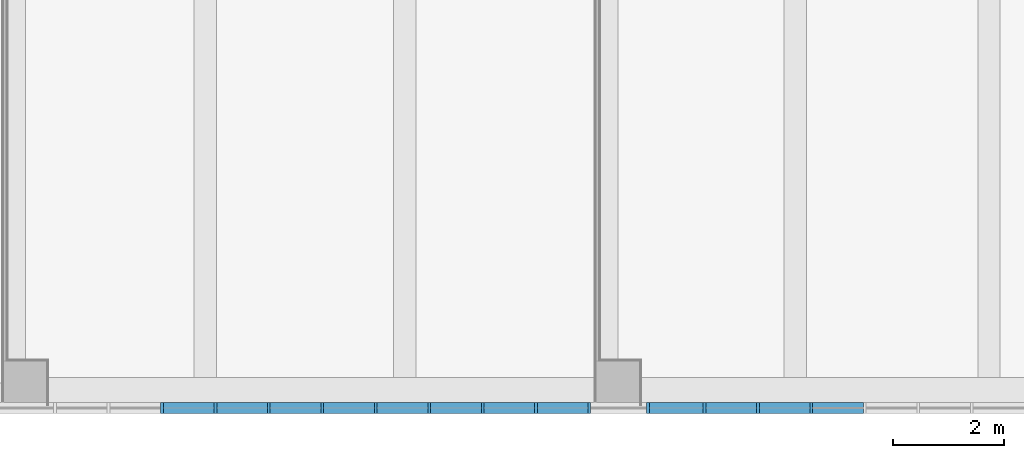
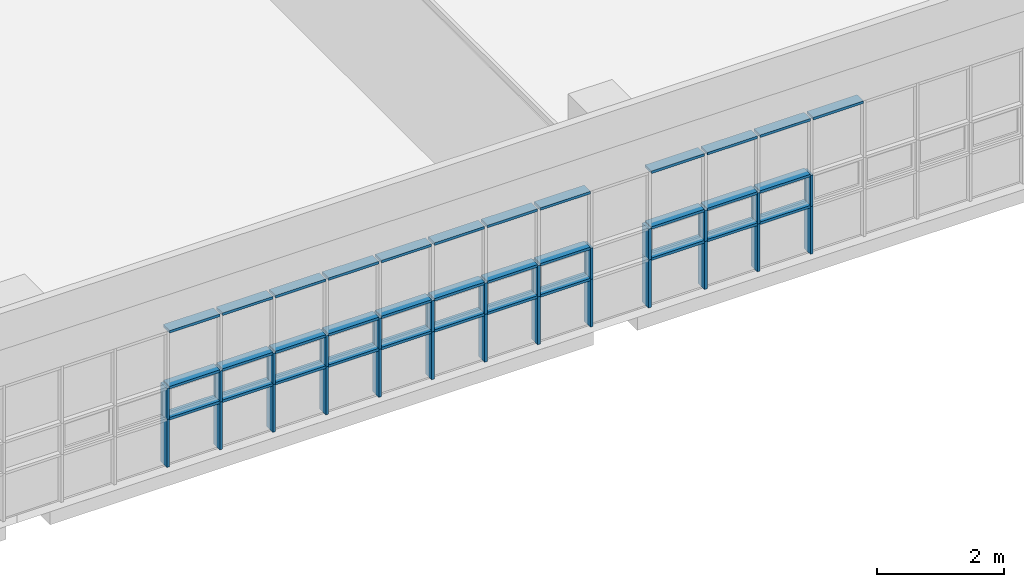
# One storey, part 14 of 81: 60 members, 1 element without a shape of its own.
"""IFC2X3 building model written with IfcOpenShell, lengths in millimetres."""

import ifcopenshell
import ifcopenshell.guid

model = None  # the IFC model being written
_history = None  # IfcOwnerHistory: only IFC2X3 demands one
_inside = {}  # id of a spatial element -> (the spatial element, [elements in it])
_under = {}  # id of a project, library or spatial element -> (it, [spatial elements below it])
_declared = {}  # id of a project -> (the project, [libraries it declares])
_typed = {}  # id of a type object -> (the type object, [elements of that type])
_made_of = {}  # id of a material, layer set ... -> (it, [elements and type objects made of it])


def new_model(schema):
    """Start an empty IFC model of exactly this schema.

    Asked for "IFC4X3", IfcOpenShell would pick the latest addendum, in which some entities
    have other attributes; the version numbers below select the first issue.
    IFC2X3 requires an IfcOwnerHistory on every rooted entity: one is made here for all.
    """
    global model, _history
    if schema == "IFC4X3":
        model = ifcopenshell.file(schema_version=(4, 3, 0, 0))
    else:
        model = ifcopenshell.file(schema=schema)
    _inside.clear()
    _under.clear()
    _declared.clear()
    _typed.clear()
    _made_of.clear()
    _history = None
    if model.schema == "IFC2X3":
        org = make("IfcOrganization", Name="unknown")
        user = make(
            "IfcPersonAndOrganization",
            ThePerson=make("IfcPerson", FamilyName="unknown"),
            TheOrganization=org,
        )
        app = make(
            "IfcApplication",
            ApplicationDeveloper=org,
            Version="unknown",
            ApplicationFullName="unknown",
            ApplicationIdentifier="unknown",
        )
        _history = make(
            "IfcOwnerHistory",
            OwningUser=user,
            OwningApplication=app,
            ChangeAction="ADDED",
            CreationDate=0,
        )
    return model


def make(cls, **values):
    """One entity of the class cls with the attributes given. An attribute that is None is left unset."""
    return model.create_entity(
        cls, **{name: value for name, value in values.items() if value is not None}
    )


def entity(cls, *values):
    """Any entity or typed value of the class cls, its attributes in the order of the schema. None: left unset."""
    e = model.create_entity(cls)
    for i, value in enumerate(values):
        if value is not None:
            e[i] = value
    return e


def rooted(cls, **values):
    """An entity with a GlobalId (a new one), such as an element, a storey or a relation."""
    return make(cls, GlobalId=ifcopenshell.guid.new(), OwnerHistory=_history, **values)


def si_unit(unit_type, name, prefix=None):
    """IfcSIUnit, for example si_unit("LENGTHUNIT", "METRE", prefix="MILLI")."""
    return make("IfcSIUnit", UnitType=unit_type, Prefix=prefix, Name=name)


def converted_unit(unit_type, name, factor, base, dimensions=None, offset=None):
    """IfcConversionBasedUnit, such as the inch: factor (a typed value) times the base unit."""
    return make(
        "IfcConversionBasedUnit"
        if offset is None
        else "IfcConversionBasedUnitWithOffset",
        ConversionOffset=offset,
        Dimensions=None
        if dimensions is None
        else entity("IfcDimensionalExponents", *dimensions),
        UnitType=unit_type,
        Name=name,
        ConversionFactor=make(
            "IfcMeasureWithUnit", ValueComponent=factor, UnitComponent=base
        ),
    )


def derived_unit(unit_type, elements):
    """IfcDerivedUnit: a product of units, each with its exponent."""
    return make(
        "IfcDerivedUnit",
        Elements=[
            make("IfcDerivedUnitElement", Unit=unit, Exponent=power)
            for unit, power in elements
        ],
        UnitType=unit_type,
    )


def assignment(units):
    """IfcUnitAssignment: the units of a project."""
    return None if units is None else make("IfcUnitAssignment", Units=units)


def point(xyz):
    """IfcCartesianPoint."""
    return None if xyz is None else make("IfcCartesianPoint", Coordinates=xyz)


def direction(xyz):
    """IfcDirection."""
    return None if xyz is None else make("IfcDirection", DirectionRatios=xyz)


def frame(location, z_axis=None, x_axis=None):
    """IfcAxis2Placement3D, a coordinate frame: its origin and axes. An axis left out is left unset."""
    return make(
        "IfcAxis2Placement3D",
        Location=point(location),
        Axis=direction(z_axis),
        RefDirection=direction(x_axis),
    )


def frame_2d(location, x_axis=None):
    """IfcAxis2Placement2D, a coordinate frame in the plane: its origin and x axis."""
    return make(
        "IfcAxis2Placement2D", Location=point(location), RefDirection=direction(x_axis)
    )


def origin():
    """The frame at (0, 0, 0) with its axes left unset."""
    return frame((0.0, 0.0, 0.0))


def origin_2d_with_axis():
    """The frame at (0, 0) in the plane with the x axis (1, 0) written out."""
    return frame_2d((0.0, 0.0), x_axis=(1.0, 0.0))


def place(relative_to, where):
    """IfcLocalPlacement: puts the frame where relative to a parent placement (None: the world)."""
    return make(
        "IfcLocalPlacement", PlacementRelTo=relative_to, RelativePlacement=where
    )


def context(
    kind, dimensions, precision=None, world=None, true_north=None, identifier=None
):
    """IfcGeometricRepresentationContext, for example the 3D "Model" context."""
    return make(
        "IfcGeometricRepresentationContext",
        ContextIdentifier=identifier,
        ContextType=kind,
        CoordinateSpaceDimension=dimensions,
        Precision=precision,
        WorldCoordinateSystem=world,
        TrueNorth=true_north,
    )


def subcontext(parent, identifier, kind, view, scale=None):
    """IfcGeometricRepresentationSubContext, for example "Body" below "Model"."""
    return make(
        "IfcGeometricRepresentationSubContext",
        ContextIdentifier=identifier,
        ContextType=kind,
        ParentContext=parent,
        TargetScale=scale,
        TargetView=view,
    )


def project(units=None, contexts=None):
    """IfcProject with its units and contexts."""
    return rooted(
        "IfcProject",
        Name="project",
        RepresentationContexts=contexts,
        UnitsInContext=assignment(units),
    )


def spatial(cls, under=None, at=None, **own):
    """A site, building, storey or space (cls), placed at a placement, below another one or the project."""
    s = rooted(cls, ObjectPlacement=at, **own)
    if under is not None:
        _under.setdefault(under.id(), (under, []))[1].append(s)
    return s


def profile(cls, at=None, kind="AREA", **sizes):
    """A parametric profile (cls). Its sizes go by their IFC names, for example OverallWidth=200.0."""
    return make(cls, ProfileType=kind, Position=at, **sizes)


def rectangle(**sizes):
    """IfcRectangleProfileDef."""
    return profile("IfcRectangleProfileDef", **sizes)


def extrude(swept, where, along, depth):
    """IfcExtrudedAreaSolid: the profile swept, set in the frame where, extruded along a direction by depth."""
    return make(
        "IfcExtrudedAreaSolid",
        SweptArea=swept,
        Position=where,
        ExtrudedDirection=direction(along),
        Depth=depth,
    )


def shape(context_of_items, identifier, shape_type, items):
    """IfcShapeRepresentation: the items that make up one representation, for example the "Body"."""
    return make(
        "IfcShapeRepresentation",
        ContextOfItems=context_of_items,
        RepresentationIdentifier=identifier,
        RepresentationType=shape_type,
        Items=items,
    )


def source(mapping_origin, context_of_items, identifier, shape_type, items):
    """IfcRepresentationMap: a shape defined once, which mapped items show again and again."""
    return make(
        "IfcRepresentationMap",
        MappingOrigin=mapping_origin,
        MappedRepresentation=shape(context_of_items, identifier, shape_type, items),
    )


def transform(
    local_origin,
    x_axis=None,
    y_axis=None,
    z_axis=None,
    scale=None,
    scale2=None,
    scale3=None,
    uniform=True,
):
    """IfcCartesianTransformationOperator3D, or its non-uniform kind. x_axis, y_axis, z_axis: its Axis1, 2, 3."""
    if uniform:
        return make(
            "IfcCartesianTransformationOperator3D",
            Axis1=direction(x_axis),
            Axis2=direction(y_axis),
            LocalOrigin=point(local_origin),
            Scale=scale,
            Axis3=direction(z_axis),
        )
    return make(
        "IfcCartesianTransformationOperator3DnonUniform",
        Axis1=direction(x_axis),
        Axis2=direction(y_axis),
        LocalOrigin=point(local_origin),
        Scale=scale,
        Axis3=direction(z_axis),
        Scale2=scale2,
        Scale3=scale3,
    )


def mapped(mapping_source, mapping_target):
    """IfcMappedItem: shows the shape of a source again, moved by a transform."""
    return make(
        "IfcMappedItem", MappingSource=mapping_source, MappingTarget=mapping_target
    )


def material(Name=None, Category=None):
    """IfcMaterial."""
    return make("IfcMaterial", Name=Name, Category=Category)


def made_of(thing, what):
    """Note that an element or type object is made of a material, layer set ...; save() writes the relation."""
    if what is not None:
        _made_of.setdefault(what.id(), (what, []))[1].append(thing)
    return thing


def type_object(cls, material=None, **own):
    """A type object (cls), such as IfcWallType, which elements share."""
    return made_of(rooted(cls, **own), material)


def type_shapes(of_type, sources):
    """Give a type object the sources (RepresentationMaps) that its elements show as mapped items."""
    of_type.RepresentationMaps = sources


def element(
    cls,
    number,
    at=None,
    inside=None,
    cuts=None,
    type_object=None,
    material=None,
    context=None,
    identifier="Body",
    shape_type=None,
    held_by="IfcProductDefinitionShape",
    body=None,
    shapes=None,
    **own,
):
    """One element of the class cls, such as IfcWall. Its Tag is "e" and its number.

    at: its placement. inside: the storey or other place that contains it. cuts: it is an
    opening in that element (IfcRelVoidsElement). A single representation is given by context,
    identifier, shape_type and body (its items); several are given by shapes. held_by: the class
    of the entity that holds the representations. save() writes the other relations.
    """
    e = rooted(cls, Tag="e%d" % number, ObjectPlacement=at, **own)
    if body is not None:
        shapes = [shape(context, identifier, shape_type, body)]
    if shapes is not None:
        e.Representation = make(held_by, Representations=shapes)
    if inside is not None:
        _inside.setdefault(inside.id(), (inside, []))[1].append(e)
    if cuts is not None:
        rooted(
            "IfcRelVoidsElement", RelatingBuildingElement=cuts, RelatedOpeningElement=e
        )
    if type_object is not None:
        _typed.setdefault(type_object.id(), (type_object, []))[1].append(e)
    return made_of(e, material)


def aggregate(whole, parts):
    """IfcRelAggregates: a whole, such as a stair, and the parts it consists of."""
    return rooted("IfcRelAggregates", RelatingObject=whole, RelatedObjects=parts)


def save(model, path):
    """Write the relations noted so far, then the file.

    IfcRelAggregates (storeys below a building ...), IfcRelContainedInSpatialStructure (elements
    in a storey), IfcRelDefinesByType, IfcRelAssociatesMaterial and IfcRelDeclares: one each for
    every whole, place, type object, material and project.
    """
    for whole, parts in _under.values():
        aggregate(whole, parts)
    for where, things in _inside.values():
        rooted(
            "IfcRelContainedInSpatialStructure",
            RelatedElements=things,
            RelatingStructure=where,
        )
    for kind, things in _typed.values():
        rooted("IfcRelDefinesByType", RelatedObjects=things, RelatingType=kind)
    for what, things in _made_of.values():
        rooted("IfcRelAssociatesMaterial", RelatedObjects=things, RelatingMaterial=what)
    for by, libraries in _declared.values():
        rooted("IfcRelDeclares", RelatingContext=by, RelatedDefinitions=libraries)
    model.write(path)


model = new_model("IFC2X3")

# Units and contexts
model_context = context("Model", 3, precision=0.01, world=origin(), true_north=direction((6.123031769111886e-17, 1.0)))
body_context = subcontext(model_context, "Body", "Model", "MODEL_VIEW")
ifc_project = project(units=[si_unit("LENGTHUNIT", "METRE", prefix="MILLI"), si_unit("AREAUNIT", "SQUARE_METRE"), si_unit("VOLUMEUNIT", "CUBIC_METRE"), converted_unit("PLANEANGLEUNIT", "DEGREE", entity("IfcRatioMeasure", 0.017453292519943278), si_unit("PLANEANGLEUNIT", "RADIAN"), dimensions=[0, 0, 0, 0, 0, 0, 0]), si_unit("MASSUNIT", "GRAM", prefix="KILO"), derived_unit("MASSDENSITYUNIT", [(si_unit("MASSUNIT", "GRAM", prefix="KILO"), 1), (si_unit("LENGTHUNIT", "METRE"), -3)]), derived_unit("MOMENTOFINERTIAUNIT", [(si_unit("LENGTHUNIT", "METRE"), 4)]), si_unit("TIMEUNIT", "SECOND"), si_unit("FREQUENCYUNIT", "HERTZ"), si_unit("THERMODYNAMICTEMPERATUREUNIT", "DEGREE_CELSIUS"), derived_unit("THERMALTRANSMITTANCEUNIT", [(si_unit("MASSUNIT", "GRAM", prefix="KILO"), 1), (si_unit("THERMODYNAMICTEMPERATUREUNIT", "KELVIN"), -1), (si_unit("TIMEUNIT", "SECOND"), -3)]), derived_unit("VOLUMETRICFLOWRATEUNIT", [(si_unit("LENGTHUNIT", "METRE"), 3), (si_unit("TIMEUNIT", "SECOND"), -1)]), derived_unit("MASSFLOWRATEUNIT", [(si_unit("MASSUNIT", "GRAM", prefix="KILO"), 1), (si_unit("TIMEUNIT", "SECOND"), -1)]), derived_unit("ROTATIONALFREQUENCYUNIT", [(si_unit("TIMEUNIT", "SECOND"), -1)]), si_unit("ELECTRICCURRENTUNIT", "AMPERE"), si_unit("ELECTRICVOLTAGEUNIT", "VOLT"), si_unit("POWERUNIT", "WATT"), si_unit("FORCEUNIT", "NEWTON", prefix="KILO"), si_unit("ILLUMINANCEUNIT", "LUX"), si_unit("LUMINOUSFLUXUNIT", "LUMEN"), si_unit("LUMINOUSINTENSITYUNIT", "CANDELA"), derived_unit("USERDEFINED", [(si_unit("MASSUNIT", "GRAM", prefix="KILO"), -1), (si_unit("LENGTHUNIT", "METRE"), -2), (si_unit("TIMEUNIT", "SECOND"), 3), (si_unit("LUMINOUSFLUXUNIT", "LUMEN"), 1)]), derived_unit("SOUNDPOWERUNIT", [(si_unit("MASSUNIT", "GRAM", prefix="KILO"), 1), (si_unit("LENGTHUNIT", "METRE"), 2), (si_unit("TIMEUNIT", "SECOND"), -3)]), derived_unit("SOUNDPRESSUREUNIT", [(si_unit("MASSUNIT", "GRAM", prefix="KILO"), 1), (si_unit("LENGTHUNIT", "METRE"), -1), (si_unit("TIMEUNIT", "SECOND"), -2)]), derived_unit("LINEARVELOCITYUNIT", [(si_unit("LENGTHUNIT", "METRE"), 1), (si_unit("TIMEUNIT", "SECOND"), -1)]), si_unit("PRESSUREUNIT", "PASCAL"), derived_unit("USERDEFINED", [(si_unit("LENGTHUNIT", "METRE"), -2), (si_unit("MASSUNIT", "GRAM", prefix="KILO"), 1), (si_unit("TIMEUNIT", "SECOND"), -2)]), derived_unit("LINEARFORCEUNIT", [(si_unit("MASSUNIT", "GRAM", prefix="KILO"), 1), (si_unit("LENGTHUNIT", "METRE"), 1), (si_unit("TIMEUNIT", "SECOND"), -2), (si_unit("LENGTHUNIT", "METRE"), -1)]), derived_unit("PLANARFORCEUNIT", [(si_unit("MASSUNIT", "GRAM", prefix="KILO"), 1), (si_unit("LENGTHUNIT", "METRE"), 1), (si_unit("TIMEUNIT", "SECOND"), -2), (si_unit("LENGTHUNIT", "METRE"), -2)])], contexts=[model_context])

# Site, building, storey
site_placement = place(None, frame((-14167.972527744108, -657.2125860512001, 0.0)))
site = spatial("IfcSite", under=ifc_project, at=site_placement, Name="Default", CompositionType="ELEMENT")
building_placement = place(site_placement, origin())
building = spatial("IfcBuilding", under=site, at=building_placement, Name="Sample Building", CompositionType="ELEMENT")
storey_placement = place(building_placement, frame((0.0, 0.0, 13400.0)))
storey = spatial("IfcBuildingStorey", under=building, at=storey_placement, Name="지상 4층", CompositionType="ELEMENT", Elevation=13400.00000000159)

# Curtain wall, members
curtain_wall_type = type_object("IfcCurtainWallType", Name="커튼월:CW112-스테인리스 스틸 커튼월", PredefinedType="NOTDEFINED")
curtain_wall_placement = place(storey_placement, frame((0.0, 0.0, -13400.0)))
curtain_wall = element("IfcCurtainWall", 1, at=curtain_wall_placement, inside=storey, type_object=curtain_wall_type, Name="커튼월:CW112-스테인리스 스틸 커튼월", ObjectType="커튼월:CW112-스테인리스 스틸 커튼월")
ifc_material = material(Name="<Unnamed>")
member_type_1 = type_object("IfcMemberType", Name="직사각형 멀리언:CW200-직사각형 멀리언 50x200mm", PredefinedType="MULLION", material=ifc_material)
shared_shape_1 = source(origin(), body_context, "Body", "SweptSolid", [
    extrude(rectangle(XDim=200.0, YDim=50.0, at=origin_2d_with_axis()), frame((0.0, 0.0, -600.0), z_axis=(0.0, 0.0, 1.0), x_axis=(0.0, -1.0, 0.0)), (0.0, 0.0, 1.0), 600.0),
])
type_shapes(member_type_1, [shared_shape_1])
member_1_placement = place(curtain_wall_placement, frame((32935.156070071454, 507.2122951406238, 14400.0), z_axis=(0.0, 0.0, -1.0), x_axis=(1.0, 0.0, 0.0)))
member_1 = element("IfcMember", 2, at=member_1_placement, type_object=member_type_1, material=ifc_material, Name="직사각형 멀리언:CW200-직사각형 멀리언 50x200mm", ObjectType="직사각형 멀리언:CW200-직사각형 멀리언 50x200mm", context=body_context, shape_type="MappedRepresentation", body=[
    mapped(shared_shape_1, transform((0.0, 0.0, 0.0), scale=1.0)),
])
member_2_placement = place(curtain_wall_placement, frame((33900.156070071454, 507.2122951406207, 14400.0), z_axis=(0.0, 0.0, -1.0), x_axis=(1.0, 0.0, 0.0)))
member_2 = element("IfcMember", 3, at=member_2_placement, type_object=member_type_1, material=ifc_material, Name="직사각형 멀리언:CW200-직사각형 멀리언 50x200mm", ObjectType="직사각형 멀리언:CW200-직사각형 멀리언 50x200mm", context=body_context, shape_type="MappedRepresentation", body=[
    mapped(shared_shape_1, transform((0.0, 0.0, 0.0), scale=1.0)),
])
member_3_placement = place(curtain_wall_placement, frame((34865.15607007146, 507.2122951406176, 14400.0), z_axis=(0.0, 0.0, -1.0), x_axis=(1.0, 0.0, 0.0)))
member_3 = element("IfcMember", 4, at=member_3_placement, type_object=member_type_1, material=ifc_material, Name="직사각형 멀리언:CW200-직사각형 멀리언 50x200mm", ObjectType="직사각형 멀리언:CW200-직사각형 멀리언 50x200mm", context=body_context, shape_type="MappedRepresentation", body=[
    mapped(shared_shape_1, transform((0.0, 0.0, 0.0), scale=1.0)),
])
member_4_placement = place(curtain_wall_placement, frame((35830.156070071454, 507.21229514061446, 14400.0), z_axis=(0.0, 0.0, -1.0), x_axis=(1.0, 0.0, 0.0)))
member_4 = element("IfcMember", 5, at=member_4_placement, type_object=member_type_1, material=ifc_material, Name="직사각형 멀리언:CW200-직사각형 멀리언 50x200mm", ObjectType="직사각형 멀리언:CW200-직사각형 멀리언 50x200mm", context=body_context, shape_type="MappedRepresentation", body=[
    mapped(shared_shape_1, transform((0.0, 0.0, 0.0), scale=1.0)),
])
member_5_placement = place(curtain_wall_placement, frame((36795.156070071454, 507.21229514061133, 14400.0), z_axis=(0.0, 0.0, -1.0), x_axis=(1.0, 0.0, 0.0)))
member_5 = element("IfcMember", 6, at=member_5_placement, type_object=member_type_1, material=ifc_material, Name="직사각형 멀리언:CW200-직사각형 멀리언 50x200mm", ObjectType="직사각형 멀리언:CW200-직사각형 멀리언 50x200mm", context=body_context, shape_type="MappedRepresentation", body=[
    mapped(shared_shape_1, transform((0.0, 0.0, 0.0), scale=1.0)),
])
member_6_placement = place(curtain_wall_placement, frame((37760.15607007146, 507.21229514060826, 14400.0), z_axis=(0.0, 0.0, -1.0), x_axis=(1.0, 0.0, 0.0)))
member_6 = element("IfcMember", 7, at=member_6_placement, type_object=member_type_1, material=ifc_material, Name="직사각형 멀리언:CW200-직사각형 멀리언 50x200mm", ObjectType="직사각형 멀리언:CW200-직사각형 멀리언 50x200mm", context=body_context, shape_type="MappedRepresentation", body=[
    mapped(shared_shape_1, transform((0.0, 0.0, 0.0), scale=1.0)),
])
member_7_placement = place(curtain_wall_placement, frame((38725.156070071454, 507.21229514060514, 14400.0), z_axis=(0.0, 0.0, -1.0), x_axis=(1.0, 0.0, 0.0)))
member_7 = element("IfcMember", 8, at=member_7_placement, type_object=member_type_1, material=ifc_material, Name="직사각형 멀리언:CW200-직사각형 멀리언 50x200mm", ObjectType="직사각형 멀리언:CW200-직사각형 멀리언 50x200mm", context=body_context, shape_type="MappedRepresentation", body=[
    mapped(shared_shape_1, transform((0.0, 0.0, 0.0), scale=1.0)),
])
member_8_placement = place(curtain_wall_placement, frame((39690.15607007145, 507.212295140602, 14400.0), z_axis=(0.0, 0.0, -1.0), x_axis=(1.0, 0.0, 0.0)))
member_8 = element("IfcMember", 9, at=member_8_placement, type_object=member_type_1, material=ifc_material, Name="직사각형 멀리언:CW200-직사각형 멀리언 50x200mm", ObjectType="직사각형 멀리언:CW200-직사각형 멀리언 50x200mm", context=body_context, shape_type="MappedRepresentation", body=[
    mapped(shared_shape_1, transform((0.0, 0.0, 0.0), scale=1.0)),
])
member_9_placement = place(curtain_wall_placement, frame((41710.15607007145, 507.21229514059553, 14400.0), z_axis=(0.0, 0.0, -1.0), x_axis=(1.0, 0.0, 0.0)))
member_9 = element("IfcMember", 10, at=member_9_placement, type_object=member_type_1, material=ifc_material, Name="직사각형 멀리언:CW200-직사각형 멀리언 50x200mm", ObjectType="직사각형 멀리언:CW200-직사각형 멀리언 50x200mm", context=body_context, shape_type="MappedRepresentation", body=[
    mapped(shared_shape_1, transform((0.0, 0.0, 0.0), scale=1.0)),
])
member_10_placement = place(curtain_wall_placement, frame((42730.156070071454, 507.2122951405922, 14400.0), z_axis=(0.0, 0.0, -1.0), x_axis=(1.0, 0.0, 0.0)))
member_10 = element("IfcMember", 11, at=member_10_placement, type_object=member_type_1, material=ifc_material, Name="직사각형 멀리언:CW200-직사각형 멀리언 50x200mm", ObjectType="직사각형 멀리언:CW200-직사각형 멀리언 50x200mm", context=body_context, shape_type="MappedRepresentation", body=[
    mapped(shared_shape_1, transform((0.0, 0.0, 0.0), scale=1.0)),
])
member_11_placement = place(curtain_wall_placement, frame((43695.15607007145, 507.2122951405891, 14400.0), z_axis=(0.0, 0.0, -1.0), x_axis=(1.0, 0.0, 0.0)))
member_11 = element("IfcMember", 12, at=member_11_placement, type_object=member_type_1, material=ifc_material, Name="직사각형 멀리언:CW200-직사각형 멀리언 50x200mm", ObjectType="직사각형 멀리언:CW200-직사각형 멀리언 50x200mm", context=body_context, shape_type="MappedRepresentation", body=[
    mapped(shared_shape_1, transform((0.0, 0.0, 0.0), scale=1.0)),
])
member_12_placement = place(curtain_wall_placement, frame((44660.15607007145, 507.212295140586, 14400.0), z_axis=(0.0, 0.0, -1.0), x_axis=(1.0, 0.0, 0.0)))
member_12 = element("IfcMember", 13, at=member_12_placement, type_object=member_type_1, material=ifc_material, Name="직사각형 멀리언:CW200-직사각형 멀리언 50x200mm", ObjectType="직사각형 멀리언:CW200-직사각형 멀리언 50x200mm", context=body_context, shape_type="MappedRepresentation", body=[
    mapped(shared_shape_1, transform((0.0, 0.0, 0.0), scale=1.0)),
])
member_13_placement = place(curtain_wall_placement, frame((40650.15607007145, 507.2122951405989, 14400.0), z_axis=(0.0, 0.0, -1.0), x_axis=(1.0, 0.0, 0.0)))
member_13 = element("IfcMember", 14, at=member_13_placement, type_object=member_type_1, material=ifc_material, Name="직사각형 멀리언:CW200-직사각형 멀리언 50x200mm", ObjectType="직사각형 멀리언:CW200-직사각형 멀리언 50x200mm", context=body_context, shape_type="MappedRepresentation", body=[
    mapped(shared_shape_1, transform((0.0, 0.0, 0.0), scale=1.0)),
])
member_type_2 = type_object("IfcMemberType", Name="직사각형 멀리언:CW200-직사각형 멀리언 50x200mm", PredefinedType="MULLION", material=ifc_material)
shared_shape_2 = source(origin(), body_context, "Body", "SweptSolid", [
    extrude(rectangle(XDim=200.0, YDim=50.0, at=origin_2d_with_axis()), frame((0.0, 0.0, -915.0), z_axis=(0.0, 0.0, 1.0), x_axis=(0.0, -1.0, 0.0)), (0.0, 0.0, 1.0), 915.000000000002),
])
type_shapes(member_type_2, [shared_shape_2])
member_14_placement = place(curtain_wall_placement, frame((33875.15607007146, 507.21229514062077, 14400.0), z_axis=(1.0, 0.0, 0.0), x_axis=(0.0, 0.0, 1.0)))
member_14 = element("IfcMember", 15, at=member_14_placement, type_object=member_type_2, material=ifc_material, Name="직사각형 멀리언:CW200-직사각형 멀리언 50x200mm", ObjectType="직사각형 멀리언:CW200-직사각형 멀리언 50x200mm", context=body_context, shape_type="MappedRepresentation", body=[
    mapped(shared_shape_2, transform((0.0, 0.0, 0.0), scale=1.0)),
])
member_15_placement = place(curtain_wall_placement, frame((34840.15607007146, 507.21229514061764, 14400.0), z_axis=(1.0, 0.0, 0.0), x_axis=(0.0, 0.0, 1.0)))
member_15 = element("IfcMember", 16, at=member_15_placement, type_object=member_type_2, material=ifc_material, Name="직사각형 멀리언:CW200-직사각형 멀리언 50x200mm", ObjectType="직사각형 멀리언:CW200-직사각형 멀리언 50x200mm", context=body_context, shape_type="MappedRepresentation", body=[
    mapped(shared_shape_2, transform((0.0, 0.0, 0.0), scale=1.0)),
])
member_16_placement = place(curtain_wall_placement, frame((35805.156070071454, 507.2122951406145, 14400.0), z_axis=(1.0, 0.0, 0.0), x_axis=(0.0, 0.0, 1.0)))
member_16 = element("IfcMember", 17, at=member_16_placement, type_object=member_type_2, material=ifc_material, Name="직사각형 멀리언:CW200-직사각형 멀리언 50x200mm", ObjectType="직사각형 멀리언:CW200-직사각형 멀리언 50x200mm", context=body_context, shape_type="MappedRepresentation", body=[
    mapped(shared_shape_2, transform((0.0, 0.0, 0.0), scale=1.0)),
])
member_17_placement = place(curtain_wall_placement, frame((36770.15607007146, 507.21229514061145, 14400.0), z_axis=(1.0, 0.0, 0.0), x_axis=(0.0, 0.0, 1.0)))
member_17 = element("IfcMember", 18, at=member_17_placement, type_object=member_type_2, material=ifc_material, Name="직사각형 멀리언:CW200-직사각형 멀리언 50x200mm", ObjectType="직사각형 멀리언:CW200-직사각형 멀리언 50x200mm", context=body_context, shape_type="MappedRepresentation", body=[
    mapped(shared_shape_2, transform((0.0, 0.0, 0.0), scale=1.0)),
])
member_18_placement = place(curtain_wall_placement, frame((37735.15607007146, 507.2122951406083, 14400.0), z_axis=(1.0, 0.0, 0.0), x_axis=(0.0, 0.0, 1.0)))
member_18 = element("IfcMember", 19, at=member_18_placement, type_object=member_type_2, material=ifc_material, Name="직사각형 멀리언:CW200-직사각형 멀리언 50x200mm", ObjectType="직사각형 멀리언:CW200-직사각형 멀리언 50x200mm", context=body_context, shape_type="MappedRepresentation", body=[
    mapped(shared_shape_2, transform((0.0, 0.0, 0.0), scale=1.0)),
])
member_19_placement = place(curtain_wall_placement, frame((38700.15607007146, 507.2122951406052, 14400.0), z_axis=(1.0, 0.0, 0.0), x_axis=(0.0, 0.0, 1.0)))
member_19 = element("IfcMember", 20, at=member_19_placement, type_object=member_type_2, material=ifc_material, Name="직사각형 멀리언:CW200-직사각형 멀리언 50x200mm", ObjectType="직사각형 멀리언:CW200-직사각형 멀리언 50x200mm", context=body_context, shape_type="MappedRepresentation", body=[
    mapped(shared_shape_2, transform((0.0, 0.0, 0.0), scale=1.0)),
])
member_20_placement = place(curtain_wall_placement, frame((39665.15607007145, 507.21229514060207, 14400.0), z_axis=(1.0, 0.0, 0.0), x_axis=(0.0, 0.0, 1.0)))
member_20 = element("IfcMember", 21, at=member_20_placement, type_object=member_type_2, material=ifc_material, Name="직사각형 멀리언:CW200-직사각형 멀리언 50x200mm", ObjectType="직사각형 멀리언:CW200-직사각형 멀리언 50x200mm", context=body_context, shape_type="MappedRepresentation", body=[
    mapped(shared_shape_2, transform((0.0, 0.0, 0.0), scale=1.0)),
])
member_21_placement = place(curtain_wall_placement, frame((33875.15607007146, 507.21229514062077, 15000.0), z_axis=(1.0, 0.0, 0.0), x_axis=(0.0, 0.0, 1.0)))
member_21 = element("IfcMember", 22, at=member_21_placement, type_object=member_type_2, material=ifc_material, Name="직사각형 멀리언:CW200-직사각형 멀리언 50x200mm", ObjectType="직사각형 멀리언:CW200-직사각형 멀리언 50x200mm", context=body_context, shape_type="MappedRepresentation", body=[
    mapped(shared_shape_2, transform((0.0, 0.0, 0.0), scale=1.0)),
])
member_22_placement = place(curtain_wall_placement, frame((34840.156070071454, 507.21229514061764, 15000.0), z_axis=(1.0, 0.0, 0.0), x_axis=(0.0, 0.0, 1.0)))
member_22 = element("IfcMember", 23, at=member_22_placement, type_object=member_type_2, material=ifc_material, Name="직사각형 멀리언:CW200-직사각형 멀리언 50x200mm", ObjectType="직사각형 멀리언:CW200-직사각형 멀리언 50x200mm", context=body_context, shape_type="MappedRepresentation", body=[
    mapped(shared_shape_2, transform((0.0, 0.0, 0.0), scale=1.0)),
])
member_23_placement = place(curtain_wall_placement, frame((35805.156070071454, 507.2122951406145, 15000.0), z_axis=(1.0, 0.0, 0.0), x_axis=(0.0, 0.0, 1.0)))
member_23 = element("IfcMember", 24, at=member_23_placement, type_object=member_type_2, material=ifc_material, Name="직사각형 멀리언:CW200-직사각형 멀리언 50x200mm", ObjectType="직사각형 멀리언:CW200-직사각형 멀리언 50x200mm", context=body_context, shape_type="MappedRepresentation", body=[
    mapped(shared_shape_2, transform((0.0, 0.0, 0.0), scale=1.0)),
])
member_24_placement = place(curtain_wall_placement, frame((36770.15607007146, 507.21229514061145, 15000.0), z_axis=(1.0, 0.0, 0.0), x_axis=(0.0, 0.0, 1.0)))
member_24 = element("IfcMember", 25, at=member_24_placement, type_object=member_type_2, material=ifc_material, Name="직사각형 멀리언:CW200-직사각형 멀리언 50x200mm", ObjectType="직사각형 멀리언:CW200-직사각형 멀리언 50x200mm", context=body_context, shape_type="MappedRepresentation", body=[
    mapped(shared_shape_2, transform((0.0, 0.0, 0.0), scale=1.0)),
])
member_25_placement = place(curtain_wall_placement, frame((37735.156070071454, 507.2122951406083, 15000.0), z_axis=(1.0, 0.0, 0.0), x_axis=(0.0, 0.0, 1.0)))
member_25 = element("IfcMember", 26, at=member_25_placement, type_object=member_type_2, material=ifc_material, Name="직사각형 멀리언:CW200-직사각형 멀리언 50x200mm", ObjectType="직사각형 멀리언:CW200-직사각형 멀리언 50x200mm", context=body_context, shape_type="MappedRepresentation", body=[
    mapped(shared_shape_2, transform((0.0, 0.0, 0.0), scale=1.0)),
])
member_26_placement = place(curtain_wall_placement, frame((38700.156070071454, 507.2122951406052, 15000.0), z_axis=(1.0, 0.0, 0.0), x_axis=(0.0, 0.0, 1.0)))
member_26 = element("IfcMember", 27, at=member_26_placement, type_object=member_type_2, material=ifc_material, Name="직사각형 멀리언:CW200-직사각형 멀리언 50x200mm", ObjectType="직사각형 멀리언:CW200-직사각형 멀리언 50x200mm", context=body_context, shape_type="MappedRepresentation", body=[
    mapped(shared_shape_2, transform((0.0, 0.0, 0.0), scale=1.0)),
])
member_27_placement = place(curtain_wall_placement, frame((39665.15607007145, 507.21229514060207, 15000.0), z_axis=(1.0, 0.0, 0.0), x_axis=(0.0, 0.0, 1.0)))
member_27 = element("IfcMember", 28, at=member_27_placement, type_object=member_type_2, material=ifc_material, Name="직사각형 멀리언:CW200-직사각형 멀리언 50x200mm", ObjectType="직사각형 멀리언:CW200-직사각형 멀리언 50x200mm", context=body_context, shape_type="MappedRepresentation", body=[
    mapped(shared_shape_2, transform((0.0, 0.0, 0.0), scale=1.0)),
])
member_28_placement = place(curtain_wall_placement, frame((43670.15607007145, 507.21229514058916, 14400.0), z_axis=(1.0, 0.0, 0.0), x_axis=(0.0, 0.0, 1.0)))
member_28 = element("IfcMember", 29, at=member_28_placement, type_object=member_type_2, material=ifc_material, Name="직사각형 멀리언:CW200-직사각형 멀리언 50x200mm", ObjectType="직사각형 멀리언:CW200-직사각형 멀리언 50x200mm", context=body_context, shape_type="MappedRepresentation", body=[
    mapped(shared_shape_2, transform((0.0, 0.0, 0.0), scale=1.0)),
])
member_29_placement = place(curtain_wall_placement, frame((44635.15607007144, 507.21229514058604, 14400.0), z_axis=(1.0, 0.0, 0.0), x_axis=(0.0, 0.0, 1.0)))
member_29 = element("IfcMember", 30, at=member_29_placement, type_object=member_type_2, material=ifc_material, Name="직사각형 멀리언:CW200-직사각형 멀리언 50x200mm", ObjectType="직사각형 멀리언:CW200-직사각형 멀리언 50x200mm", context=body_context, shape_type="MappedRepresentation", body=[
    mapped(shared_shape_2, transform((0.0, 0.0, 0.0), scale=1.0)),
])
member_30_placement = place(curtain_wall_placement, frame((43670.15607007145, 507.21229514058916, 15000.0), z_axis=(1.0, 0.0, 0.0), x_axis=(0.0, 0.0, 1.0)))
member_30 = element("IfcMember", 31, at=member_30_placement, type_object=member_type_2, material=ifc_material, Name="직사각형 멀리언:CW200-직사각형 멀리언 50x200mm", ObjectType="직사각형 멀리언:CW200-직사각형 멀리언 50x200mm", context=body_context, shape_type="MappedRepresentation", body=[
    mapped(shared_shape_2, transform((0.0, 0.0, 0.0), scale=1.0)),
])
member_31_placement = place(curtain_wall_placement, frame((44635.15607007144, 507.21229514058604, 15000.0), z_axis=(1.0, 0.0, 0.0), x_axis=(0.0, 0.0, 1.0)))
member_31 = element("IfcMember", 32, at=member_31_placement, type_object=member_type_2, material=ifc_material, Name="직사각형 멀리언:CW200-직사각형 멀리언 50x200mm", ObjectType="직사각형 멀리언:CW200-직사각형 멀리언 50x200mm", context=body_context, shape_type="MappedRepresentation", body=[
    mapped(shared_shape_2, transform((0.0, 0.0, 0.0), scale=1.0)),
])
member_type_3 = type_object("IfcMemberType", Name="직사각형 멀리언:CW200-직사각형 멀리언 50x200mm", PredefinedType="MULLION", material=ifc_material)
shared_shape_3 = source(origin(), body_context, "Body", "SweptSolid", [
    extrude(rectangle(XDim=200.0, YDim=50.0, at=origin_2d_with_axis()), frame((-25.0, 0.0, -915.0), z_axis=(0.0, 0.0, 1.0), x_axis=(0.0, -1.0, 0.0)), (0.0, 0.0, 1.0), 914.9999999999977),
])
type_shapes(member_type_3, [shared_shape_3])
member_32_placement = place(curtain_wall_placement, frame((33875.15607007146, 507.21229514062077, 16100.0), z_axis=(1.0, 0.0, 0.0), x_axis=(0.0, 0.0, 1.0)))
member_32 = element("IfcMember", 33, at=member_32_placement, type_object=member_type_3, material=ifc_material, Name="직사각형 멀리언:CW200-직사각형 멀리언 50x200mm", ObjectType="직사각형 멀리언:CW200-직사각형 멀리언 50x200mm", context=body_context, shape_type="MappedRepresentation", body=[
    mapped(shared_shape_3, transform((0.0, 0.0, 0.0), scale=1.0)),
])
member_33_placement = place(curtain_wall_placement, frame((34840.156070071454, 507.21229514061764, 16100.0), z_axis=(1.0, 0.0, 0.0), x_axis=(0.0, 0.0, 1.0)))
member_33 = element("IfcMember", 34, at=member_33_placement, type_object=member_type_3, material=ifc_material, Name="직사각형 멀리언:CW200-직사각형 멀리언 50x200mm", ObjectType="직사각형 멀리언:CW200-직사각형 멀리언 50x200mm", context=body_context, shape_type="MappedRepresentation", body=[
    mapped(shared_shape_3, transform((0.0, 0.0, 0.0), scale=1.0)),
])
member_34_placement = place(curtain_wall_placement, frame((35805.156070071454, 507.2122951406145, 16100.0), z_axis=(1.0, 0.0, 0.0), x_axis=(0.0, 0.0, 1.0)))
member_34 = element("IfcMember", 35, at=member_34_placement, type_object=member_type_3, material=ifc_material, Name="직사각형 멀리언:CW200-직사각형 멀리언 50x200mm", ObjectType="직사각형 멀리언:CW200-직사각형 멀리언 50x200mm", context=body_context, shape_type="MappedRepresentation", body=[
    mapped(shared_shape_3, transform((0.0, 0.0, 0.0), scale=1.0)),
])
member_35_placement = place(curtain_wall_placement, frame((36770.15607007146, 507.21229514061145, 16100.0), z_axis=(1.0, 0.0, 0.0), x_axis=(0.0, 0.0, 1.0)))
member_35 = element("IfcMember", 36, at=member_35_placement, type_object=member_type_3, material=ifc_material, Name="직사각형 멀리언:CW200-직사각형 멀리언 50x200mm", ObjectType="직사각형 멀리언:CW200-직사각형 멀리언 50x200mm", context=body_context, shape_type="MappedRepresentation", body=[
    mapped(shared_shape_3, transform((0.0, 0.0, 0.0), scale=1.0)),
])
member_36_placement = place(curtain_wall_placement, frame((37735.15607007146, 507.2122951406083, 16100.0), z_axis=(1.0, 0.0, 0.0), x_axis=(0.0, 0.0, 1.0)))
member_36 = element("IfcMember", 37, at=member_36_placement, type_object=member_type_3, material=ifc_material, Name="직사각형 멀리언:CW200-직사각형 멀리언 50x200mm", ObjectType="직사각형 멀리언:CW200-직사각형 멀리언 50x200mm", context=body_context, shape_type="MappedRepresentation", body=[
    mapped(shared_shape_3, transform((0.0, 0.0, 0.0), scale=1.0)),
])
member_37_placement = place(curtain_wall_placement, frame((38700.156070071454, 507.2122951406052, 16100.0), z_axis=(1.0, 0.0, 0.0), x_axis=(0.0, 0.0, 1.0)))
member_37 = element("IfcMember", 38, at=member_37_placement, type_object=member_type_3, material=ifc_material, Name="직사각형 멀리언:CW200-직사각형 멀리언 50x200mm", ObjectType="직사각형 멀리언:CW200-직사각형 멀리언 50x200mm", context=body_context, shape_type="MappedRepresentation", body=[
    mapped(shared_shape_3, transform((0.0, 0.0, 0.0), scale=1.0)),
])
member_38_placement = place(curtain_wall_placement, frame((39665.15607007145, 507.21229514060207, 16100.0), z_axis=(1.0, 0.0, 0.0), x_axis=(0.0, 0.0, 1.0)))
member_38 = element("IfcMember", 39, at=member_38_placement, type_object=member_type_3, material=ifc_material, Name="직사각형 멀리언:CW200-직사각형 멀리언 50x200mm", ObjectType="직사각형 멀리언:CW200-직사각형 멀리언 50x200mm", context=body_context, shape_type="MappedRepresentation", body=[
    mapped(shared_shape_3, transform((0.0, 0.0, 0.0), scale=1.0)),
])
member_39_placement = place(curtain_wall_placement, frame((43670.15607007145, 507.21229514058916, 16100.0), z_axis=(1.0, 0.0, 0.0), x_axis=(0.0, 0.0, 1.0)))
member_39 = element("IfcMember", 40, at=member_39_placement, type_object=member_type_3, material=ifc_material, Name="직사각형 멀리언:CW200-직사각형 멀리언 50x200mm", ObjectType="직사각형 멀리언:CW200-직사각형 멀리언 50x200mm", context=body_context, shape_type="MappedRepresentation", body=[
    mapped(shared_shape_3, transform((0.0, 0.0, 0.0), scale=1.0)),
])
member_40_placement = place(curtain_wall_placement, frame((44635.15607007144, 507.21229514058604, 16100.0), z_axis=(1.0, 0.0, 0.0), x_axis=(0.0, 0.0, 1.0)))
member_40 = element("IfcMember", 41, at=member_40_placement, type_object=member_type_3, material=ifc_material, Name="직사각형 멀리언:CW200-직사각형 멀리언 50x200mm", ObjectType="직사각형 멀리언:CW200-직사각형 멀리언 50x200mm", context=body_context, shape_type="MappedRepresentation", body=[
    mapped(shared_shape_3, transform((0.0, 0.0, 0.0), scale=1.0)),
])
member_41_placement = place(curtain_wall_placement, frame((45600.15607007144, 507.2122951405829, 16100.0), z_axis=(1.0, 0.0, 0.0), x_axis=(0.0, 0.0, 1.0)))
member_41 = element("IfcMember", 42, at=member_41_placement, type_object=member_type_3, material=ifc_material, Name="직사각형 멀리언:CW200-직사각형 멀리언 50x200mm", ObjectType="직사각형 멀리언:CW200-직사각형 멀리언 50x200mm", context=body_context, shape_type="MappedRepresentation", body=[
    mapped(shared_shape_3, transform((0.0, 0.0, 0.0), scale=1.0)),
])
member_type_4 = type_object("IfcMemberType", Name="직사각형 멀리언:CW200-직사각형 멀리언 50x200mm", PredefinedType="MULLION", material=ifc_material)
shared_shape_4 = source(origin(), body_context, "Body", "SweptSolid", [
    extrude(rectangle(XDim=200.0, YDim=50.0, at=origin_2d_with_axis()), frame((0.0, 0.0, -910.0), z_axis=(0.0, 0.0, 1.0), x_axis=(0.0, -1.0, 0.0)), (0.0, 0.0, 1.0), 909.9999999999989),
])
type_shapes(member_type_4, [shared_shape_4])
member_42_placement = place(curtain_wall_placement, frame((40625.15607007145, 507.212295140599, 14400.0), z_axis=(1.0, 0.0, 0.0), x_axis=(0.0, 0.0, 1.0)))
member_42 = element("IfcMember", 43, at=member_42_placement, type_object=member_type_4, material=ifc_material, Name="직사각형 멀리언:CW200-직사각형 멀리언 50x200mm", ObjectType="직사각형 멀리언:CW200-직사각형 멀리언 50x200mm", context=body_context, shape_type="MappedRepresentation", body=[
    mapped(shared_shape_4, transform((0.0, 0.0, 0.0), scale=1.0)),
])
member_43_placement = place(curtain_wall_placement, frame((40625.15607007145, 507.212295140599, 15000.0), z_axis=(1.0, 0.0, 0.0), x_axis=(0.0, 0.0, 1.0)))
member_43 = element("IfcMember", 44, at=member_43_placement, type_object=member_type_4, material=ifc_material, Name="직사각형 멀리언:CW200-직사각형 멀리언 50x200mm", ObjectType="직사각형 멀리언:CW200-직사각형 멀리언 50x200mm", context=body_context, shape_type="MappedRepresentation", body=[
    mapped(shared_shape_4, transform((0.0, 0.0, 0.0), scale=1.0)),
])
member_type_5 = type_object("IfcMemberType", Name="직사각형 멀리언:CW200-직사각형 멀리언 50x200mm", PredefinedType="MULLION", material=ifc_material)
shared_shape_5 = source(origin(), body_context, "Body", "SweptSolid", [
    extrude(rectangle(XDim=200.0, YDim=50.0, at=origin_2d_with_axis()), frame((-25.0, 0.0, -970.0), z_axis=(0.0, 0.0, 1.0), x_axis=(0.0, -1.0, 0.0)), (0.0, 0.0, 1.0), 970.0000000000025),
])
type_shapes(member_type_5, [shared_shape_5])
member_44_placement = place(curtain_wall_placement, frame((42705.15607007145, 507.2122951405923, 16100.0), z_axis=(1.0, 0.0, 0.0), x_axis=(0.0, 0.0, 1.0)))
member_44 = element("IfcMember", 45, at=member_44_placement, type_object=member_type_5, material=ifc_material, Name="직사각형 멀리언:CW200-직사각형 멀리언 50x200mm", ObjectType="직사각형 멀리언:CW200-직사각형 멀리언 50x200mm", context=body_context, shape_type="MappedRepresentation", body=[
    mapped(shared_shape_5, transform((0.0, 0.0, 0.0), scale=1.0)),
])
member_type_6 = type_object("IfcMemberType", Name="직사각형 멀리언:CW200-직사각형 멀리언 50x200mm", PredefinedType="MULLION", material=ifc_material)
shared_shape_6 = source(origin(), body_context, "Body", "SweptSolid", [
    extrude(rectangle(XDim=200.0, YDim=50.0, at=origin_2d_with_axis()), frame((0.0, 0.0, -970.0), z_axis=(0.0, 0.0, 1.0), x_axis=(0.0, -1.0, 0.0)), (0.0, 0.0, 1.0), 970.0000000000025),
])
type_shapes(member_type_6, [shared_shape_6])
member_45_placement = place(curtain_wall_placement, frame((42705.15607007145, 507.2122951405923, 14400.0), z_axis=(1.0, 0.0, 0.0), x_axis=(0.0, 0.0, 1.0)))
member_45 = element("IfcMember", 46, at=member_45_placement, type_object=member_type_6, material=ifc_material, Name="직사각형 멀리언:CW200-직사각형 멀리언 50x200mm", ObjectType="직사각형 멀리언:CW200-직사각형 멀리언 50x200mm", context=body_context, shape_type="MappedRepresentation", body=[
    mapped(shared_shape_6, transform((0.0, 0.0, 0.0), scale=1.0)),
])
member_46_placement = place(curtain_wall_placement, frame((42705.15607007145, 507.2122951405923, 15000.0), z_axis=(1.0, 0.0, 0.0), x_axis=(0.0, 0.0, 1.0)))
member_46 = element("IfcMember", 47, at=member_46_placement, type_object=member_type_6, material=ifc_material, Name="직사각형 멀리언:CW200-직사각형 멀리언 50x200mm", ObjectType="직사각형 멀리언:CW200-직사각형 멀리언 50x200mm", context=body_context, shape_type="MappedRepresentation", body=[
    mapped(shared_shape_6, transform((0.0, 0.0, 0.0), scale=1.0)),
])
member_type_7 = type_object("IfcMemberType", Name="직사각형 멀리언:CW200-직사각형 멀리언 50x200mm", PredefinedType="MULLION", material=ifc_material)
shared_shape_7 = source(origin(), body_context, "Body", "SweptSolid", [
    extrude(rectangle(XDim=200.0, YDim=50.0, at=origin_2d_with_axis()), frame((-25.0, 0.0, -910.0), z_axis=(0.0, 0.0, 1.0), x_axis=(0.0, -1.0, 0.0)), (0.0, 0.0, 1.0), 909.9999999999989),
])
type_shapes(member_type_7, [shared_shape_7])
member_47_placement = place(curtain_wall_placement, frame((40625.15607007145, 507.212295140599, 16100.0), z_axis=(1.0, 0.0, 0.0), x_axis=(0.0, 0.0, 1.0)))
member_47 = element("IfcMember", 48, at=member_47_placement, type_object=member_type_7, material=ifc_material, Name="직사각형 멀리언:CW200-직사각형 멀리언 50x200mm", ObjectType="직사각형 멀리언:CW200-직사각형 멀리언 50x200mm", context=body_context, shape_type="MappedRepresentation", body=[
    mapped(shared_shape_7, transform((0.0, 0.0, 0.0), scale=1.0)),
])
member_type_8 = type_object("IfcMemberType", Name="직사각형 멀리언:CW200-직사각형 멀리언 50x200mm", PredefinedType="MULLION", material=ifc_material)
shared_shape_8 = source(origin(), body_context, "Body", "SweptSolid", [
    extrude(rectangle(XDim=200.0, YDim=50.0, at=origin_2d_with_axis()), frame((0.0, 0.0, -920.0), z_axis=(0.0, 0.0, 1.0), x_axis=(0.0, -1.0, 0.0)), (0.0, 0.0, 1.0), 919.9999999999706),
])
type_shapes(member_type_8, [shared_shape_8])
member_48_placement = place(curtain_wall_placement, frame((32935.156070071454, 507.2122951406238, 13480.0), z_axis=(0.0, 0.0, -1.0), x_axis=(1.0, 0.0, 0.0)))
member_48 = element("IfcMember", 49, at=member_48_placement, type_object=member_type_8, material=ifc_material, Name="직사각형 멀리언:CW200-직사각형 멀리언 50x200mm", ObjectType="직사각형 멀리언:CW200-직사각형 멀리언 50x200mm", context=body_context, shape_type="MappedRepresentation", body=[
    mapped(shared_shape_8, transform((0.0, 0.0, 0.0), scale=1.0)),
])
member_49_placement = place(curtain_wall_placement, frame((33900.15607007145, 507.2122951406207, 13480.0), z_axis=(0.0, 0.0, -1.0), x_axis=(1.0, 0.0, 0.0)))
member_49 = element("IfcMember", 50, at=member_49_placement, type_object=member_type_8, material=ifc_material, Name="직사각형 멀리언:CW200-직사각형 멀리언 50x200mm", ObjectType="직사각형 멀리언:CW200-직사각형 멀리언 50x200mm", context=body_context, shape_type="MappedRepresentation", body=[
    mapped(shared_shape_8, transform((0.0, 0.0, 0.0), scale=1.0)),
])
member_50_placement = place(curtain_wall_placement, frame((34865.15607007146, 507.2122951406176, 13480.0), z_axis=(0.0, 0.0, -1.0), x_axis=(1.0, 0.0, 0.0)))
member_50 = element("IfcMember", 51, at=member_50_placement, type_object=member_type_8, material=ifc_material, Name="직사각형 멀리언:CW200-직사각형 멀리언 50x200mm", ObjectType="직사각형 멀리언:CW200-직사각형 멀리언 50x200mm", context=body_context, shape_type="MappedRepresentation", body=[
    mapped(shared_shape_8, transform((0.0, 0.0, 0.0), scale=1.0)),
])
member_51_placement = place(curtain_wall_placement, frame((35830.156070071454, 507.21229514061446, 13480.0), z_axis=(0.0, 0.0, -1.0), x_axis=(1.0, 0.0, 0.0)))
member_51 = element("IfcMember", 52, at=member_51_placement, type_object=member_type_8, material=ifc_material, Name="직사각형 멀리언:CW200-직사각형 멀리언 50x200mm", ObjectType="직사각형 멀리언:CW200-직사각형 멀리언 50x200mm", context=body_context, shape_type="MappedRepresentation", body=[
    mapped(shared_shape_8, transform((0.0, 0.0, 0.0), scale=1.0)),
])
member_52_placement = place(curtain_wall_placement, frame((36795.156070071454, 507.21229514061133, 13480.0), z_axis=(0.0, 0.0, -1.0), x_axis=(1.0, 0.0, 0.0)))
member_52 = element("IfcMember", 53, at=member_52_placement, type_object=member_type_8, material=ifc_material, Name="직사각형 멀리언:CW200-직사각형 멀리언 50x200mm", ObjectType="직사각형 멀리언:CW200-직사각형 멀리언 50x200mm", context=body_context, shape_type="MappedRepresentation", body=[
    mapped(shared_shape_8, transform((0.0, 0.0, 0.0), scale=1.0)),
])
member_53_placement = place(curtain_wall_placement, frame((37760.15607007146, 507.21229514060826, 13480.0), z_axis=(0.0, 0.0, -1.0), x_axis=(1.0, 0.0, 0.0)))
member_53 = element("IfcMember", 54, at=member_53_placement, type_object=member_type_8, material=ifc_material, Name="직사각형 멀리언:CW200-직사각형 멀리언 50x200mm", ObjectType="직사각형 멀리언:CW200-직사각형 멀리언 50x200mm", context=body_context, shape_type="MappedRepresentation", body=[
    mapped(shared_shape_8, transform((0.0, 0.0, 0.0), scale=1.0)),
])
member_54_placement = place(curtain_wall_placement, frame((38725.156070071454, 507.21229514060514, 13480.0), z_axis=(0.0, 0.0, -1.0), x_axis=(1.0, 0.0, 0.0)))
member_54 = element("IfcMember", 55, at=member_54_placement, type_object=member_type_8, material=ifc_material, Name="직사각형 멀리언:CW200-직사각형 멀리언 50x200mm", ObjectType="직사각형 멀리언:CW200-직사각형 멀리언 50x200mm", context=body_context, shape_type="MappedRepresentation", body=[
    mapped(shared_shape_8, transform((0.0, 0.0, 0.0), scale=1.0)),
])
member_55_placement = place(curtain_wall_placement, frame((39690.15607007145, 507.212295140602, 13480.0), z_axis=(0.0, 0.0, -1.0), x_axis=(1.0, 0.0, 0.0)))
member_55 = element("IfcMember", 56, at=member_55_placement, type_object=member_type_8, material=ifc_material, Name="직사각형 멀리언:CW200-직사각형 멀리언 50x200mm", ObjectType="직사각형 멀리언:CW200-직사각형 멀리언 50x200mm", context=body_context, shape_type="MappedRepresentation", body=[
    mapped(shared_shape_8, transform((0.0, 0.0, 0.0), scale=1.0)),
])
member_56_placement = place(curtain_wall_placement, frame((41710.15607007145, 507.21229514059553, 13480.0), z_axis=(0.0, 0.0, -1.0), x_axis=(1.0, 0.0, 0.0)))
member_56 = element("IfcMember", 57, at=member_56_placement, type_object=member_type_8, material=ifc_material, Name="직사각형 멀리언:CW200-직사각형 멀리언 50x200mm", ObjectType="직사각형 멀리언:CW200-직사각형 멀리언 50x200mm", context=body_context, shape_type="MappedRepresentation", body=[
    mapped(shared_shape_8, transform((0.0, 0.0, 0.0), scale=1.0)),
])
member_57_placement = place(curtain_wall_placement, frame((42730.156070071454, 507.2122951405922, 13480.0), z_axis=(0.0, 0.0, -1.0), x_axis=(1.0, 0.0, 0.0)))
member_57 = element("IfcMember", 58, at=member_57_placement, type_object=member_type_8, material=ifc_material, Name="직사각형 멀리언:CW200-직사각형 멀리언 50x200mm", ObjectType="직사각형 멀리언:CW200-직사각형 멀리언 50x200mm", context=body_context, shape_type="MappedRepresentation", body=[
    mapped(shared_shape_8, transform((0.0, 0.0, 0.0), scale=1.0)),
])
member_58_placement = place(curtain_wall_placement, frame((43695.15607007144, 507.2122951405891, 13480.0), z_axis=(0.0, 0.0, -1.0), x_axis=(1.0, 0.0, 0.0)))
member_58 = element("IfcMember", 59, at=member_58_placement, type_object=member_type_8, material=ifc_material, Name="직사각형 멀리언:CW200-직사각형 멀리언 50x200mm", ObjectType="직사각형 멀리언:CW200-직사각형 멀리언 50x200mm", context=body_context, shape_type="MappedRepresentation", body=[
    mapped(shared_shape_8, transform((0.0, 0.0, 0.0), scale=1.0)),
])
member_59_placement = place(curtain_wall_placement, frame((44660.15607007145, 507.212295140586, 13480.0), z_axis=(0.0, 0.0, -1.0), x_axis=(1.0, 0.0, 0.0)))
member_59 = element("IfcMember", 60, at=member_59_placement, type_object=member_type_8, material=ifc_material, Name="직사각형 멀리언:CW200-직사각형 멀리언 50x200mm", ObjectType="직사각형 멀리언:CW200-직사각형 멀리언 50x200mm", context=body_context, shape_type="MappedRepresentation", body=[
    mapped(shared_shape_8, transform((0.0, 0.0, 0.0), scale=1.0)),
])
member_60_placement = place(curtain_wall_placement, frame((40650.15607007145, 507.2122951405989, 13480.0), z_axis=(0.0, 0.0, -1.0), x_axis=(1.0, 0.0, 0.0)))
member_60 = element("IfcMember", 61, at=member_60_placement, type_object=member_type_8, material=ifc_material, Name="직사각형 멀리언:CW200-직사각형 멀리언 50x200mm", ObjectType="직사각형 멀리언:CW200-직사각형 멀리언 50x200mm", context=body_context, shape_type="MappedRepresentation", body=[
    mapped(shared_shape_8, transform((0.0, 0.0, 0.0), scale=1.0)),
])
aggregate(curtain_wall, [member_32, member_33, member_34, member_35, member_36, member_37, member_38, member_14, member_15, member_16, member_17, member_18, member_19, member_20, member_42, member_21, member_22, member_23, member_24, member_25, member_26, member_27, member_43, member_48, member_49, member_50, member_51, member_52, member_53, member_54, member_55, member_1, member_2, member_3, member_4, member_5, member_6, member_7, member_8, member_44, member_39, member_40, member_41, member_45, member_28, member_29, member_46, member_30, member_31, member_56, member_57, member_58, member_59, member_9, member_10, member_11, member_12, member_47, member_60, member_13])

save(model, "model.ifc")
